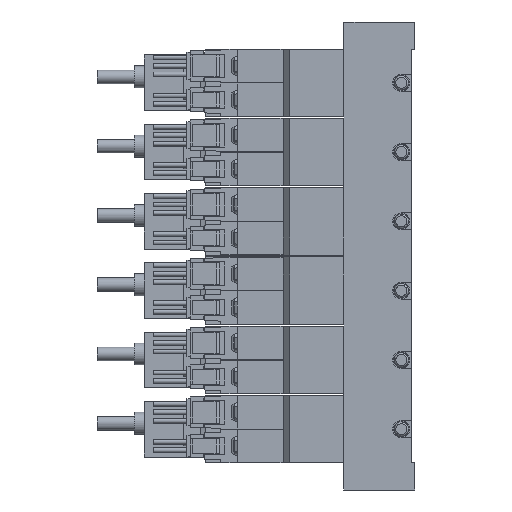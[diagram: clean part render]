
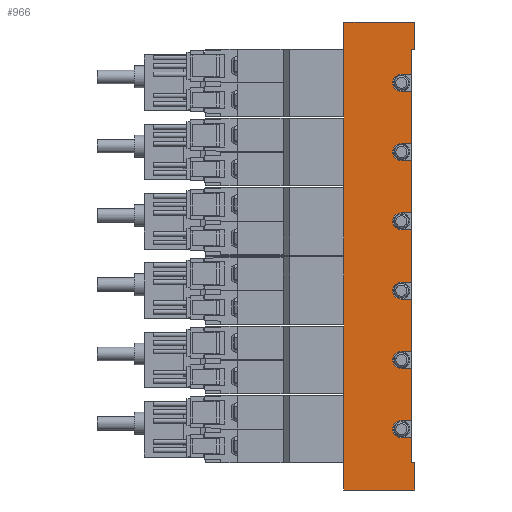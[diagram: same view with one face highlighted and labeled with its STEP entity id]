
A CAD part, left-side view. The second image highlights one B-rep face of the part: STEP entity #966.
In plain terms, the highlighted planar face has unit normal (-1, 0, 0) as drawn and (1, 0, 0) by its records, which use the part's own axes.
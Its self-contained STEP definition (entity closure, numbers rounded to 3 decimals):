
#966=ADVANCED_FACE('',(#2068),#2069,.F.);
#2068=FACE_OUTER_BOUND('',#3239,.T.);
#2069=PLANE('',#3240);
#3239=EDGE_LOOP('',(#6963,#6964,#6965,#6966,#6967,#6968,#6969,#6970,#6971,#6972,#6973,#6974,#6975,#6976,#6977,#6978,#6979,#6980,#6981,#6982,#6983,#6984,#6985,#6986,#6987,#6988,#6989,#6990,#6991,#6992,#6993,#6994));
#3240=AXIS2_PLACEMENT_3D('',#6995,#6996,#6997);
#6963=ORIENTED_EDGE('',*,*,#8346,.T.);
#6964=ORIENTED_EDGE('',*,*,#8353,.T.);
#6965=ORIENTED_EDGE('',*,*,#8259,.F.);
#6966=ORIENTED_EDGE('',*,*,#8402,.F.);
#6967=ORIENTED_EDGE('',*,*,#8290,.T.);
#6968=ORIENTED_EDGE('',*,*,#8399,.T.);
#6969=ORIENTED_EDGE('',*,*,#8394,.T.);
#6970=ORIENTED_EDGE('',*,*,#8226,.F.);
#6971=ORIENTED_EDGE('',*,*,#8373,.F.);
#6972=ORIENTED_EDGE('',*,*,#8318,.F.);
#6973=ORIENTED_EDGE('',*,*,#8393,.T.);
#6974=ORIENTED_EDGE('',*,*,#8208,.F.);
#6975=ORIENTED_EDGE('',*,*,#8330,.F.);
#6976=ORIENTED_EDGE('',*,*,#8246,.F.);
#6977=ORIENTED_EDGE('',*,*,#8391,.T.);
#6978=ORIENTED_EDGE('',*,*,#8266,.F.);
#6979=ORIENTED_EDGE('',*,*,#8332,.F.);
#6980=ORIENTED_EDGE('',*,*,#8403,.F.);
#6981=ORIENTED_EDGE('',*,*,#8389,.T.);
#6982=ORIENTED_EDGE('',*,*,#8404,.F.);
#6983=ORIENTED_EDGE('',*,*,#8306,.F.);
#6984=ORIENTED_EDGE('',*,*,#8400,.F.);
#6985=ORIENTED_EDGE('',*,*,#8385,.T.);
#6986=ORIENTED_EDGE('',*,*,#8230,.F.);
#6987=ORIENTED_EDGE('',*,*,#8255,.F.);
#6988=ORIENTED_EDGE('',*,*,#8405,.F.);
#6989=ORIENTED_EDGE('',*,*,#8382,.T.);
#6990=ORIENTED_EDGE('',*,*,#8297,.F.);
#6991=ORIENTED_EDGE('',*,*,#8406,.F.);
#6992=ORIENTED_EDGE('',*,*,#8321,.F.);
#6993=ORIENTED_EDGE('',*,*,#8380,.T.);
#6994=ORIENTED_EDGE('',*,*,#8361,.T.);
#6995=CARTESIAN_POINT('',(17.5,1.0,69.25));
#6996=DIRECTION('',(-1.0,0.0,0.0));
#6997=DIRECTION('',(0.0,0.0,1.0));
#8208=EDGE_CURVE('',#10058,#10059,#10060,.T.);
#8226=EDGE_CURVE('',#10094,#10095,#10096,.T.);
#8230=EDGE_CURVE('',#10101,#10102,#10103,.T.);
#8246=EDGE_CURVE('',#10133,#10134,#10135,.T.);
#8255=EDGE_CURVE('',#10148,#10101,#10150,.T.);
#8259=EDGE_CURVE('',#10156,#10151,#10158,.T.);
#8266=EDGE_CURVE('',#10171,#10172,#10173,.T.);
#8290=EDGE_CURVE('',#10219,#10220,#10221,.T.);
#8297=EDGE_CURVE('',#10233,#10234,#10235,.T.);
#8306=EDGE_CURVE('',#10250,#10252,#10253,.T.);
#8318=EDGE_CURVE('',#10272,#10273,#10274,.T.);
#8321=EDGE_CURVE('',#10277,#10278,#10279,.T.);
#8330=EDGE_CURVE('',#10134,#10058,#10294,.T.);
#8332=EDGE_CURVE('',#10295,#10171,#10297,.T.);
#8346=EDGE_CURVE('',#10320,#10321,#10322,.T.);
#8353=EDGE_CURVE('',#10321,#10151,#10334,.T.);
#8361=EDGE_CURVE('',#10343,#10320,#10346,.T.);
#8373=EDGE_CURVE('',#10273,#10094,#10364,.T.);
#8380=EDGE_CURVE('',#10277,#10343,#10373,.T.);
#8382=EDGE_CURVE('',#10375,#10234,#10376,.T.);
#8385=EDGE_CURVE('',#10380,#10102,#10381,.T.);
#8389=EDGE_CURVE('',#10388,#10386,#10389,.T.);
#8391=EDGE_CURVE('',#10133,#10172,#10391,.T.);
#8393=EDGE_CURVE('',#10272,#10059,#10393,.T.);
#8394=EDGE_CURVE('',#10394,#10095,#10395,.T.);
#8399=EDGE_CURVE('',#10220,#10394,#10401,.T.);
#8400=EDGE_CURVE('',#10380,#10250,#10402,.T.);
#8402=EDGE_CURVE('',#10219,#10156,#10404,.T.);
#8403=EDGE_CURVE('',#10388,#10295,#10405,.T.);
#8404=EDGE_CURVE('',#10252,#10386,#10406,.T.);
#8405=EDGE_CURVE('',#10375,#10148,#10407,.T.);
#8406=EDGE_CURVE('',#10278,#10233,#10408,.T.);
#10058=VERTEX_POINT('',#13102);
#10059=VERTEX_POINT('',#13103);
#10060=LINE('',#13104,#13105);
#10094=VERTEX_POINT('',#13146);
#10095=VERTEX_POINT('',#13147);
#10096=LINE('',#13148,#13149);
#10101=VERTEX_POINT('',#13157);
#10102=VERTEX_POINT('',#13158);
#10103=LINE('',#13159,#13160);
#10133=VERTEX_POINT('',#13414);
#10134=VERTEX_POINT('',#13415);
#10135=LINE('',#13416,#13417);
#10148=VERTEX_POINT('',#13435);
#10150=CIRCLE('',#13438,2.5);
#10151=VERTEX_POINT('',#13439);
#10156=VERTEX_POINT('',#13446);
#10158=LINE('',#13449,#13450);
#10171=VERTEX_POINT('',#13463);
#10172=VERTEX_POINT('',#13464);
#10173=LINE('',#13465,#13466);
#10219=VERTEX_POINT('',#13520);
#10220=VERTEX_POINT('',#13521);
#10221=LINE('',#13522,#13523);
#10233=VERTEX_POINT('',#13538);
#10234=VERTEX_POINT('',#13539);
#10235=LINE('',#13540,#13541);
#10250=VERTEX_POINT('',#13560);
#10252=VERTEX_POINT('',#13563);
#10253=CIRCLE('',#13564,2.5);
#10272=VERTEX_POINT('',#13584);
#10273=VERTEX_POINT('',#13585);
#10274=LINE('',#13586,#13587);
#10277=VERTEX_POINT('',#13592);
#10278=VERTEX_POINT('',#13593);
#10279=LINE('',#13594,#13595);
#10294=CIRCLE('',#13614,2.5);
#10295=VERTEX_POINT('',#13615);
#10297=CIRCLE('',#13618,2.5);
#10320=VERTEX_POINT('',#13647);
#10321=VERTEX_POINT('',#13648);
#10322=LINE('',#13649,#13650);
#10334=LINE('',#13665,#13666);
#10343=VERTEX_POINT('',#13678);
#10346=LINE('',#13683,#13684);
#10364=CIRCLE('',#13705,2.5);
#10373=LINE('',#13716,#13717);
#10375=VERTEX_POINT('',#13720);
#10376=LINE('',#13721,#13722);
#10380=VERTEX_POINT('',#13728);
#10381=LINE('',#13729,#13730);
#10386=VERTEX_POINT('',#13737);
#10388=VERTEX_POINT('',#13740);
#10389=LINE('',#13741,#13742);
#10391=LINE('',#13745,#13746);
#10393=LINE('',#13749,#13750);
#10394=VERTEX_POINT('',#13751);
#10395=LINE('',#13752,#13753);
#10401=LINE('',#13762,#13763);
#10402=LINE('',#13764,#13765);
#10404=LINE('',#13768,#13769);
#10405=LINE('',#13770,#13771);
#10406=LINE('',#13772,#13773);
#10407=LINE('',#13774,#13775);
#10408=CIRCLE('',#13776,2.5);
#13102=CARTESIAN_POINT('',(17.5,4.0,33.25));
#13103=CARTESIAN_POINT('',(17.5,1.0,33.25));
#13104=CARTESIAN_POINT('',(17.5,1.0,33.25));
#13105=VECTOR('',#15021,1.0);
#13146=CARTESIAN_POINT('',(17.5,4.0,53.75));
#13147=CARTESIAN_POINT('',(17.5,1.0,53.75));
#13148=CARTESIAN_POINT('',(17.5,1.0,53.75));
#13149=VECTOR('',#15059,1.0);
#13157=CARTESIAN_POINT('',(17.5,4.0,-28.25));
#13158=CARTESIAN_POINT('',(17.5,1.0,-28.25));
#13159=CARTESIAN_POINT('',(17.5,1.0,-28.25));
#13160=VECTOR('',#15063,1.0);
#13414=CARTESIAN_POINT('',(17.5,1.0,28.25));
#13415=CARTESIAN_POINT('',(17.5,4.0,28.25));
#13416=CARTESIAN_POINT('',(17.5,1.0,28.25));
#13417=VECTOR('',#15086,1.0);
#13435=CARTESIAN_POINT('',(17.5,4.0,-33.25));
#13438=AXIS2_PLACEMENT_3D('',#15099,#15100,#15101);
#13439=CARTESIAN_POINT('',(17.5,21.0,-69.25));
#13446=CARTESIAN_POINT('',(17.5,21.0,69.25));
#13449=CARTESIAN_POINT('',(17.5,21.0,69.25));
#13450=VECTOR('',#15105,1.0);
#13463=CARTESIAN_POINT('',(17.5,4.0,12.75));
#13464=CARTESIAN_POINT('',(17.5,1.0,12.75));
#13465=CARTESIAN_POINT('',(17.5,1.0,12.75));
#13466=VECTOR('',#15124,1.0);
#13520=CARTESIAN_POINT('',(17.5,0.0,69.25));
#13521=CARTESIAN_POINT('',(17.5,0.0,61.25));
#13522=CARTESIAN_POINT('',(17.5,0.0,69.25));
#13523=VECTOR('',#15178,1.0);
#13538=CARTESIAN_POINT('',(17.5,4.0,-48.75));
#13539=CARTESIAN_POINT('',(17.5,1.0,-48.75));
#13540=CARTESIAN_POINT('',(17.5,1.0,-48.75));
#13541=VECTOR('',#15191,1.0);
#13560=CARTESIAN_POINT('',(17.5,4.0,-12.75));
#13563=CARTESIAN_POINT('',(17.5,4.0,-7.75));
#13564=AXIS2_PLACEMENT_3D('',#15206,#15207,#15208);
#13584=CARTESIAN_POINT('',(17.5,1.0,48.75));
#13585=CARTESIAN_POINT('',(17.5,4.0,48.75));
#13586=CARTESIAN_POINT('',(17.5,1.0,48.75));
#13587=VECTOR('',#15237,1.0);
#13592=CARTESIAN_POINT('',(17.5,1.0,-53.75));
#13593=CARTESIAN_POINT('',(17.5,4.0,-53.75));
#13594=CARTESIAN_POINT('',(17.5,1.0,-53.75));
#13595=VECTOR('',#15240,1.0);
#13614=AXIS2_PLACEMENT_3D('',#15257,#15258,#15259);
#13615=CARTESIAN_POINT('',(17.5,4.0,7.75));
#13618=AXIS2_PLACEMENT_3D('',#15261,#15262,#15263);
#13647=CARTESIAN_POINT('',(17.5,0.0,-61.25));
#13648=CARTESIAN_POINT('',(17.5,0.0,-69.25));
#13649=CARTESIAN_POINT('',(17.5,0.0,-61.25));
#13650=VECTOR('',#15291,1.0);
#13665=CARTESIAN_POINT('',(17.5,1.0,-69.25));
#13666=VECTOR('',#15304,1.0);
#13678=CARTESIAN_POINT('',(17.5,1.0,-61.25));
#13683=CARTESIAN_POINT('',(17.5,4.0,-61.25));
#13684=VECTOR('',#15316,1.0);
#13705=AXIS2_PLACEMENT_3D('',#15341,#15342,#15343);
#13716=CARTESIAN_POINT('',(17.5,1.0,69.25));
#13717=VECTOR('',#15358,1.0);
#13720=CARTESIAN_POINT('',(17.5,1.0,-33.25));
#13721=CARTESIAN_POINT('',(17.5,1.0,69.25));
#13722=VECTOR('',#15360,1.0);
#13728=CARTESIAN_POINT('',(17.5,1.0,-12.75));
#13729=CARTESIAN_POINT('',(17.5,1.0,69.25));
#13730=VECTOR('',#15363,1.0);
#13737=CARTESIAN_POINT('',(17.5,1.0,-7.75));
#13740=CARTESIAN_POINT('',(17.5,1.0,7.75));
#13741=CARTESIAN_POINT('',(17.5,1.0,69.25));
#13742=VECTOR('',#15367,1.0);
#13745=CARTESIAN_POINT('',(17.5,1.0,69.25));
#13746=VECTOR('',#15369,1.0);
#13749=CARTESIAN_POINT('',(17.5,1.0,69.25));
#13750=VECTOR('',#15371,1.0);
#13751=CARTESIAN_POINT('',(17.5,1.0,61.25));
#13752=CARTESIAN_POINT('',(17.5,1.0,69.25));
#13753=VECTOR('',#15372,1.0);
#13762=CARTESIAN_POINT('',(17.5,0.0,61.25));
#13763=VECTOR('',#15379,1.0);
#13764=CARTESIAN_POINT('',(17.5,1.0,-12.75));
#13765=VECTOR('',#15380,1.0);
#13768=CARTESIAN_POINT('',(17.5,1.0,69.25));
#13769=VECTOR('',#15382,1.0);
#13770=CARTESIAN_POINT('',(17.5,1.0,7.75));
#13771=VECTOR('',#15383,1.0);
#13772=CARTESIAN_POINT('',(17.5,1.0,-7.75));
#13773=VECTOR('',#15384,1.0);
#13774=CARTESIAN_POINT('',(17.5,1.0,-33.25));
#13775=VECTOR('',#15385,1.0);
#13776=AXIS2_PLACEMENT_3D('',#15386,#15387,#15388);
#15021=DIRECTION('',(0.0,-1.0,0.0));
#15059=DIRECTION('',(0.0,-1.0,0.0));
#15063=DIRECTION('',(0.0,-1.0,0.0));
#15086=DIRECTION('',(0.0,1.0,0.0));
#15099=CARTESIAN_POINT('',(17.5,4.0,-30.75));
#15100=DIRECTION('',(1.0,0.0,-0.0));
#15101=DIRECTION('',(0.0,0.0,1.0));
#15105=DIRECTION('',(0.0,0.0,-1.0));
#15124=DIRECTION('',(0.0,-1.0,0.0));
#15178=DIRECTION('',(0.0,0.0,-1.0));
#15191=DIRECTION('',(0.0,-1.0,0.0));
#15206=CARTESIAN_POINT('',(17.5,4.0,-10.25));
#15207=DIRECTION('',(1.0,0.0,-0.0));
#15208=DIRECTION('',(0.0,0.0,1.0));
#15237=DIRECTION('',(0.0,1.0,0.0));
#15240=DIRECTION('',(0.0,1.0,0.0));
#15257=CARTESIAN_POINT('',(17.5,4.0,30.75));
#15258=DIRECTION('',(1.0,0.0,-0.0));
#15259=DIRECTION('',(0.0,0.0,1.0));
#15261=CARTESIAN_POINT('',(17.5,4.0,10.25));
#15262=DIRECTION('',(1.0,0.0,-0.0));
#15263=DIRECTION('',(0.0,0.0,1.0));
#15291=DIRECTION('',(0.0,0.0,-1.0));
#15304=DIRECTION('',(0.0,1.0,0.0));
#15316=DIRECTION('',(0.0,-1.0,0.0));
#15341=CARTESIAN_POINT('',(17.5,4.0,51.25));
#15342=DIRECTION('',(1.0,0.0,-0.0));
#15343=DIRECTION('',(0.0,0.0,1.0));
#15358=DIRECTION('',(0.0,0.0,-1.0));
#15360=DIRECTION('',(0.0,0.0,-1.0));
#15363=DIRECTION('',(0.0,0.0,-1.0));
#15367=DIRECTION('',(0.0,0.0,-1.0));
#15369=DIRECTION('',(0.0,0.0,-1.0));
#15371=DIRECTION('',(0.0,0.0,-1.0));
#15372=DIRECTION('',(0.0,0.0,-1.0));
#15379=DIRECTION('',(0.0,1.0,0.0));
#15380=DIRECTION('',(0.0,1.0,0.0));
#15382=DIRECTION('',(0.0,1.0,0.0));
#15383=DIRECTION('',(0.0,1.0,0.0));
#15384=DIRECTION('',(0.0,-1.0,0.0));
#15385=DIRECTION('',(0.0,1.0,0.0));
#15386=CARTESIAN_POINT('',(17.5,4.0,-51.25));
#15387=DIRECTION('',(1.0,0.0,-0.0));
#15388=DIRECTION('',(0.0,0.0,1.0));
